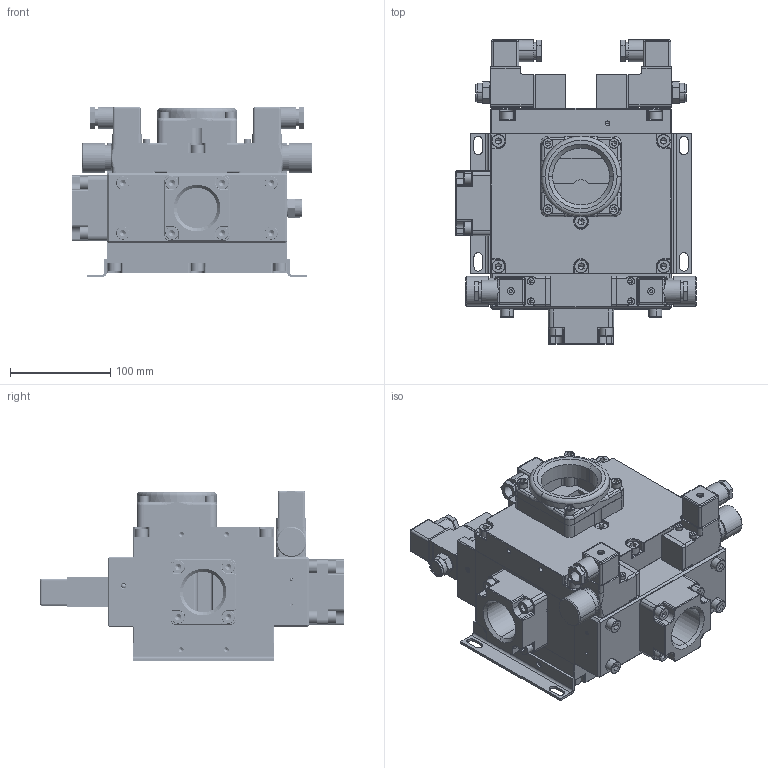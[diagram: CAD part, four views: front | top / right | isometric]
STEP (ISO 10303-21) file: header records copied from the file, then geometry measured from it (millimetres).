
FILE_DESCRIPTION (( 'STEP AP203' ), '1' );
FILE_NAME ('VSP-12.STEP', '2020-05-27T11:21:54', ( '' ), ( '' ), 'SwSTEP 2.0', 'SolidWorks 2019', '' );
FILE_SCHEMA (( 'CONFIG_CONTROL_DESIGN' ));
Products named in the file (1): VSP-12
Bounding box: 240 x 303.3 x 170 mm (x, y, z)
Volume: 3405675.2 mm3; surface area: 784232.9 mm2
Topology: 94 solids, 94 shells, 4354 faces, 10880 edges, 6780 vertices
Faces by surface type: plane 2097, cylinder 1423, cone 660, torus 112, bspline 34, sphere 28
Entity records: 135390 total; most frequent: CARTESIAN_POINT 31782, DIRECTION 21710, ORIENTED_EDGE 21196, EDGE_CURVE 10598, AXIS2_PLACEMENT_3D 7709, VERTEX_POINT 6762, VECTOR 6292, LINE 6292
